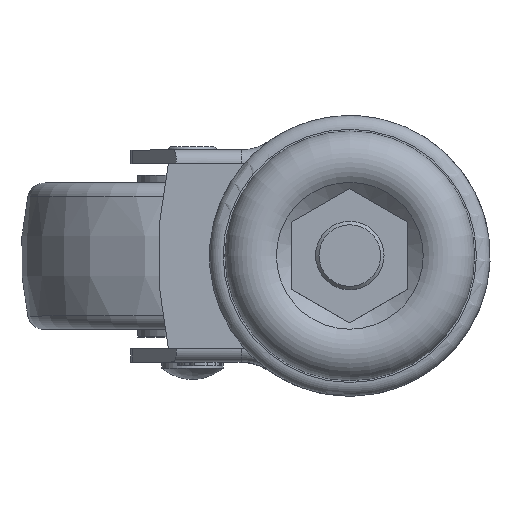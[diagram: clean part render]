
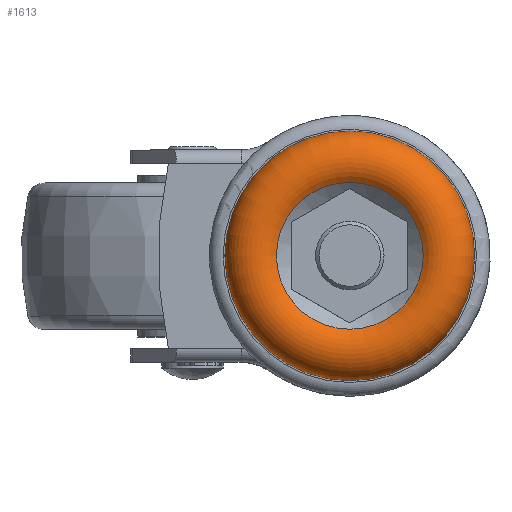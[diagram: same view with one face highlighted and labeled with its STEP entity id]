
A CAD part, top view. The second image highlights one B-rep face of the part: STEP entity #1613.
In plain terms, the highlighted toroidal (fillet/blend) face has major radius 13.75 mm and minor radius 4.5 mm.
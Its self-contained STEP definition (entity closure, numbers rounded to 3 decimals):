
#1558=TOROIDAL_SURFACE('',#6488,13.75,4.5);
#1613=ADVANCED_FACE('',(#2199,#2200),#1558,.T.);
#2199=FACE_BOUND('',#2388,.T.);
#2200=FACE_BOUND('',#2389,.T.);
#2388=EDGE_LOOP('',(#2859));
#2389=EDGE_LOOP('',(#2860));
#2859=ORIENTED_EDGE('',*,*,#5345,.T.);
#2860=ORIENTED_EDGE('',*,*,#5343,.F.);
#4705=VERTEX_POINT('',#8729);
#4707=VERTEX_POINT('',#8734);
#5343=EDGE_CURVE('',#4705,#4705,#6267,.T.);
#5345=EDGE_CURVE('',#4707,#4707,#6269,.T.);
#6267=CIRCLE('',#6484,10.727);
#6269=CIRCLE('',#6487,18.25);
#6484=AXIS2_PLACEMENT_3D('',#8728,#7088,#7089);
#6487=AXIS2_PLACEMENT_3D('',#8733,#7094,#7095);
#6488=AXIS2_PLACEMENT_3D('',#8735,#7096,#7097);
#7088=DIRECTION('',(0.,0.,1.));
#7089=DIRECTION('',(0.,-1.,0.));
#7094=DIRECTION('',(0.,0.,1.));
#7095=DIRECTION('',(0.,-1.,0.));
#7096=DIRECTION('',(0.,0.,1.));
#7097=DIRECTION('',(0.,-1.,0.));
#8728=CARTESIAN_POINT('',(0.,0.,-21.677));
#8729=CARTESIAN_POINT('',(0.,-10.727,-21.677));
#8733=CARTESIAN_POINT('',(0.,0.,-25.01));
#8734=CARTESIAN_POINT('',(0.,-18.25,-25.01));
#8735=CARTESIAN_POINT('',(0.,0.,-25.01));
